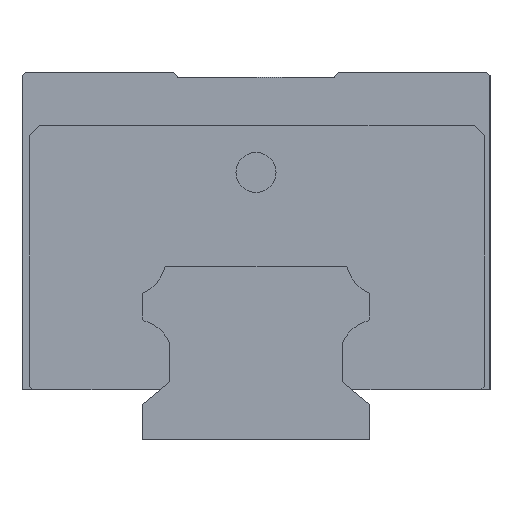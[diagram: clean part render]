
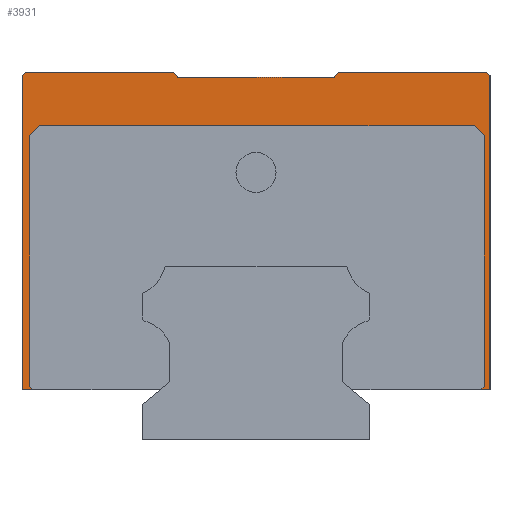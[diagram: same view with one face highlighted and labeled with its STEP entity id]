
A CAD part, left-side view. The second image highlights one B-rep face of the part: STEP entity #3931.
In plain terms, the highlighted planar face has unit normal (-1, 0, 0).
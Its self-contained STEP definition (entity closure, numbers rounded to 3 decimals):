
#58 = VECTOR ( 'NONE', #5268, 1000. ) ;
#67 = AXIS2_PLACEMENT_3D ( 'NONE', #2834, #5028, #5059 ) ;
#92 = VERTEX_POINT ( 'NONE', #5399 ) ;
#110 = FACE_OUTER_BOUND ( 'NONE', #3761, .T. ) ;
#143 = CARTESIAN_POINT ( 'NONE',  ( -61.5, 34.5, 55. ) ) ;
#180 = VERTEX_POINT ( 'NONE', #3390 ) ;
#182 = DIRECTION ( 'NONE',  ( 0., -1., 0. ) ) ;
#209 = VERTEX_POINT ( 'NONE', #1071 ) ;
#228 = VECTOR ( 'NONE', #834, 1000. ) ;
#265 = VERTEX_POINT ( 'NONE', #5279 ) ;
#276 = EDGE_CURVE ( 'NONE', #763, #1939, #3540, .T. ) ;
#314 = CARTESIAN_POINT ( 'NONE',  ( -61.5, -11.667, 54.25 ) ) ;
#341 = LINE ( 'NONE', #4487, #3331 ) ;
#353 = LINE ( 'NONE', #314, #1920 ) ;
#360 = CARTESIAN_POINT ( 'NONE',  ( -61.5, -35., 54.5 ) ) ;
#377 = DIRECTION ( 'NONE',  ( 0., 0., 1. ) ) ;
#497 = CARTESIAN_POINT ( 'NONE',  ( -61.5, 35., 54.5 ) ) ;
#510 = CARTESIAN_POINT ( 'NONE',  ( -61.5, -34.128, 45.5 ) ) ;
#512 = VECTOR ( 'NONE', #4120, 1000. ) ;
#592 = ORIENTED_EDGE ( 'NONE', *, *, #643, .F. ) ;
#617 = LINE ( 'NONE', #143, #2763 ) ;
#643 = EDGE_CURVE ( 'NONE', #265, #909, #3296, .T. ) ;
#651 = ORIENTED_EDGE ( 'NONE', *, *, #682, .F. ) ;
#673 = DIRECTION ( 'NONE',  ( 0., -0.707, 0.707 ) ) ;
#682 = EDGE_CURVE ( 'NONE', #92, #4309, #3968, .T. ) ;
#760 = EDGE_CURVE ( 'NONE', #2234, #1122, #803, .T. ) ;
#763 = VERTEX_POINT ( 'NONE', #3500 ) ;
#799 = CARTESIAN_POINT ( 'NONE',  ( -61.5, -12.296, 55. ) ) ;
#803 = LINE ( 'NONE', #1659, #3611 ) ;
#834 = DIRECTION ( 'NONE',  ( 0., 1., 0. ) ) ;
#856 = DIRECTION ( 'NONE',  ( 0., 0., -1. ) ) ;
#886 = EDGE_CURVE ( 'NONE', #180, #1122, #5446, .T. ) ;
#887 = VECTOR ( 'NONE', #2925, 1000. ) ;
#895 = LINE ( 'NONE', #3158, #3890 ) ;
#909 = VERTEX_POINT ( 'NONE', #510 ) ;
#978 = DIRECTION ( 'NONE',  ( 0., 0., -1. ) ) ;
#991 = EDGE_CURVE ( 'NONE', #4309, #1202, #3706, .T. ) ;
#999 = EDGE_CURVE ( 'NONE', #3658, #3717, #4627, .T. ) ;
#1029 = DIRECTION ( 'NONE',  ( 0., 0.707, -0.707 ) ) ;
#1071 = CARTESIAN_POINT ( 'NONE',  ( -61.5, -11.667, 54.25 ) ) ;
#1122 = VERTEX_POINT ( 'NONE', #3044 ) ;
#1169 = VECTOR ( 'NONE', #3386, 1000. ) ;
#1192 = DIRECTION ( 'NONE',  ( 0., 1., 0. ) ) ;
#1202 = VERTEX_POINT ( 'NONE', #5345 ) ;
#1242 = CARTESIAN_POINT ( 'NONE',  ( -61.5, -35., 7.5 ) ) ;
#1460 = PLANE ( 'NONE',  #67 ) ;
#1560 = VECTOR ( 'NONE', #5298, 1000. ) ;
#1562 = ORIENTED_EDGE ( 'NONE', *, *, #2288, .F. ) ;
#1586 = CARTESIAN_POINT ( 'NONE',  ( -61.5, -34.5, 55. ) ) ;
#1651 = CARTESIAN_POINT ( 'NONE',  ( -61.5, -33.628, 7.5 ) ) ;
#1659 = CARTESIAN_POINT ( 'NONE',  ( -61.5, 35., 55. ) ) ;
#1708 = DIRECTION ( 'NONE',  ( 0., -1., 0. ) ) ;
#1729 = VECTOR ( 'NONE', #1192, 1000. ) ;
#1771 = DIRECTION ( 'NONE',  ( 0., 0.643, 0.766 ) ) ;
#1920 = VECTOR ( 'NONE', #2485, 1000. ) ;
#1939 = VERTEX_POINT ( 'NONE', #1651 ) ;
#1947 = ORIENTED_EDGE ( 'NONE', *, *, #1989, .F. ) ;
#1978 = ORIENTED_EDGE ( 'NONE', *, *, #5191, .T. ) ;
#1989 = EDGE_CURVE ( 'NONE', #909, #92, #2583, .T. ) ;
#1993 = ORIENTED_EDGE ( 'NONE', *, *, #4303, .F. ) ;
#2135 = ORIENTED_EDGE ( 'NONE', *, *, #999, .T. ) ;
#2210 = VECTOR ( 'NONE', #182, 1000. ) ;
#2234 = VERTEX_POINT ( 'NONE', #3695 ) ;
#2288 = EDGE_CURVE ( 'NONE', #5169, #4254, #3194, .T. ) ;
#2463 = LINE ( 'NONE', #3440, #58 ) ;
#2485 = DIRECTION ( 'NONE',  ( 0., 1., 0. ) ) ;
#2496 = VECTOR ( 'NONE', #673, 1000. ) ;
#2541 = CARTESIAN_POINT ( 'NONE',  ( -61.5, -33.628, 7.5 ) ) ;
#2583 = LINE ( 'NONE', #5248, #3118 ) ;
#2763 = VECTOR ( 'NONE', #3138, 1000. ) ;
#2823 = ORIENTED_EDGE ( 'NONE', *, *, #5822, .F. ) ;
#2834 = CARTESIAN_POINT ( 'NONE',  ( -61.5, -35., 55. ) ) ;
#2925 = DIRECTION ( 'NONE',  ( 0., 0.707, 0.707 ) ) ;
#2951 = VECTOR ( 'NONE', #978, 1000. ) ;
#3044 = CARTESIAN_POINT ( 'NONE',  ( -61.5, 12.296, 55. ) ) ;
#3082 = LINE ( 'NONE', #799, #1560 ) ;
#3094 = ORIENTED_EDGE ( 'NONE', *, *, #991, .F. ) ;
#3118 = VECTOR ( 'NONE', #3444, 1000. ) ;
#3138 = DIRECTION ( 'NONE',  ( 0., 0.707, -0.707 ) ) ;
#3158 = CARTESIAN_POINT ( 'NONE',  ( -61.5, 35., 7.5 ) ) ;
#3192 = ORIENTED_EDGE ( 'NONE', *, *, #760, .F. ) ;
#3194 = LINE ( 'NONE', #5002, #512 ) ;
#3272 = CARTESIAN_POINT ( 'NONE',  ( -61.5, -35., 55. ) ) ;
#3296 = LINE ( 'NONE', #4693, #1169 ) ;
#3326 = ORIENTED_EDGE ( 'NONE', *, *, #4516, .F. ) ;
#3331 = VECTOR ( 'NONE', #856, 1000. ) ;
#3386 = DIRECTION ( 'NONE',  ( 0., 0., 1. ) ) ;
#3390 = CARTESIAN_POINT ( 'NONE',  ( -61.5, 11.667, 54.25 ) ) ;
#3440 = CARTESIAN_POINT ( 'NONE',  ( -61.5, 14.65, 7.5 ) ) ;
#3444 = DIRECTION ( 'NONE',  ( 0., 0.707, 0.707 ) ) ;
#3500 = CARTESIAN_POINT ( 'NONE',  ( -61.5, -35., 7.5 ) ) ;
#3540 = LINE ( 'NONE', #1242, #228 ) ;
#3576 = EDGE_CURVE ( 'NONE', #5756, #3717, #3783, .T. ) ;
#3611 = VECTOR ( 'NONE', #1708, 1000. ) ;
#3658 = VERTEX_POINT ( 'NONE', #360 ) ;
#3664 = CARTESIAN_POINT ( 'NONE',  ( -61.5, -12.296, 55. ) ) ;
#3695 = CARTESIAN_POINT ( 'NONE',  ( -61.5, 34.5, 55. ) ) ;
#3706 = LINE ( 'NONE', #5646, #5305 ) ;
#3717 = VERTEX_POINT ( 'NONE', #1586 ) ;
#3761 = EDGE_LOOP ( 'NONE', ( #592, #2823, #3953, #1993, #2135, #5019, #5631, #1978, #4117, #3192, #5762, #4877, #4521, #1562, #3326, #3094, #651, #1947 ) ) ;
#3783 = LINE ( 'NONE', #4211, #2210 ) ;
#3824 = VERTEX_POINT ( 'NONE', #497 ) ;
#3890 = VECTOR ( 'NONE', #377, 1000. ) ;
#3931 = ADVANCED_FACE ( 'NONE', ( #110 ), #1460, .F. ) ;
#3953 = ORIENTED_EDGE ( 'NONE', *, *, #276, .F. ) ;
#3968 = LINE ( 'NONE', #4781, #1729 ) ;
#4117 = ORIENTED_EDGE ( 'NONE', *, *, #886, .T. ) ;
#4120 = DIRECTION ( 'NONE',  ( 0., -0.707, -0.707 ) ) ;
#4150 = CARTESIAN_POINT ( 'NONE',  ( -61.5, -35., 54.5 ) ) ;
#4157 = CARTESIAN_POINT ( 'NONE',  ( -61.5, 33.372, 7.5 ) ) ;
#4211 = CARTESIAN_POINT ( 'NONE',  ( -61.5, 35., 55. ) ) ;
#4254 = VERTEX_POINT ( 'NONE', #4157 ) ;
#4303 = EDGE_CURVE ( 'NONE', #3658, #763, #5453, .T. ) ;
#4309 = VERTEX_POINT ( 'NONE', #4585 ) ;
#4487 = CARTESIAN_POINT ( 'NONE',  ( -61.5, 33.872, 45.5 ) ) ;
#4516 = EDGE_CURVE ( 'NONE', #1202, #5169, #341, .T. ) ;
#4521 = ORIENTED_EDGE ( 'NONE', *, *, #5521, .F. ) ;
#4585 = CARTESIAN_POINT ( 'NONE',  ( -61.5, 32.372, 47. ) ) ;
#4627 = LINE ( 'NONE', #4150, #887 ) ;
#4693 = CARTESIAN_POINT ( 'NONE',  ( -61.5, -34.128, 8. ) ) ;
#4745 = VECTOR ( 'NONE', #1771, 1000. ) ;
#4781 = CARTESIAN_POINT ( 'NONE',  ( -61.5, -32.628, 47. ) ) ;
#4877 = ORIENTED_EDGE ( 'NONE', *, *, #5347, .F. ) ;
#4985 = EDGE_CURVE ( 'NONE', #5756, #209, #3082, .T. ) ;
#5002 = CARTESIAN_POINT ( 'NONE',  ( -61.5, 33.872, 8. ) ) ;
#5019 = ORIENTED_EDGE ( 'NONE', *, *, #3576, .F. ) ;
#5028 = DIRECTION ( 'NONE',  ( 1., 0., 0. ) ) ;
#5059 = DIRECTION ( 'NONE',  ( 0., 1., 0. ) ) ;
#5069 = EDGE_CURVE ( 'NONE', #2234, #3824, #617, .T. ) ;
#5169 = VERTEX_POINT ( 'NONE', #5414 ) ;
#5191 = EDGE_CURVE ( 'NONE', #209, #180, #353, .T. ) ;
#5248 = CARTESIAN_POINT ( 'NONE',  ( -61.5, -34.128, 45.5 ) ) ;
#5268 = DIRECTION ( 'NONE',  ( 0., 1., 0. ) ) ;
#5279 = CARTESIAN_POINT ( 'NONE',  ( -61.5, -34.128, 8. ) ) ;
#5298 = DIRECTION ( 'NONE',  ( 0., 0.643, -0.766 ) ) ;
#5305 = VECTOR ( 'NONE', #1029, 1000. ) ;
#5345 = CARTESIAN_POINT ( 'NONE',  ( -61.5, 33.872, 45.5 ) ) ;
#5347 = EDGE_CURVE ( 'NONE', #5600, #3824, #895, .T. ) ;
#5399 = CARTESIAN_POINT ( 'NONE',  ( -61.5, -32.628, 47. ) ) ;
#5414 = CARTESIAN_POINT ( 'NONE',  ( -61.5, 33.872, 8. ) ) ;
#5446 = LINE ( 'NONE', #5805, #4745 ) ;
#5453 = LINE ( 'NONE', #3272, #2951 ) ;
#5521 = EDGE_CURVE ( 'NONE', #4254, #5600, #2463, .T. ) ;
#5600 = VERTEX_POINT ( 'NONE', #5794 ) ;
#5631 = ORIENTED_EDGE ( 'NONE', *, *, #4985, .T. ) ;
#5646 = CARTESIAN_POINT ( 'NONE',  ( -61.5, 32.372, 47. ) ) ;
#5668 = LINE ( 'NONE', #2541, #2496 ) ;
#5756 = VERTEX_POINT ( 'NONE', #3664 ) ;
#5762 = ORIENTED_EDGE ( 'NONE', *, *, #5069, .T. ) ;
#5794 = CARTESIAN_POINT ( 'NONE',  ( -61.5, 35., 7.5 ) ) ;
#5805 = CARTESIAN_POINT ( 'NONE',  ( -61.5, 11.667, 54.25 ) ) ;
#5822 = EDGE_CURVE ( 'NONE', #1939, #265, #5668, .T. ) ;
